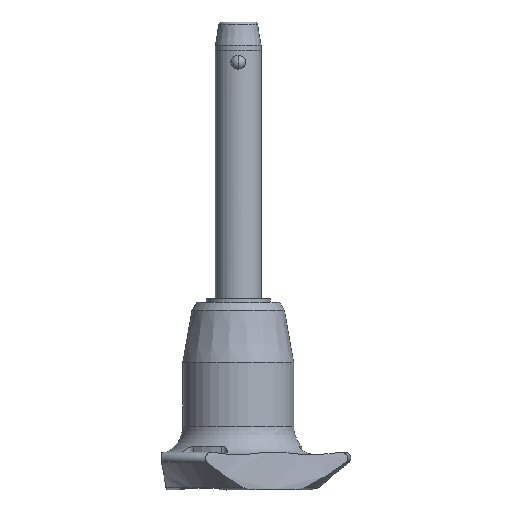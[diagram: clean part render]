
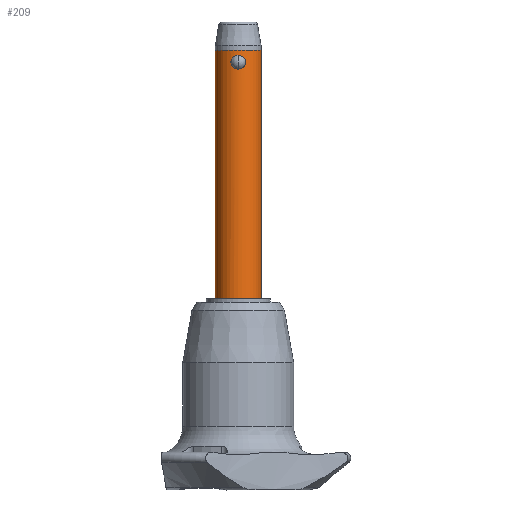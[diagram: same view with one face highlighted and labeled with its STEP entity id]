
A CAD part, front view. The second image highlights one B-rep face of the part: STEP entity #209.
In plain terms, the highlighted cylindrical face has radius 4 mm (diameter 8 mm), a partial arc.
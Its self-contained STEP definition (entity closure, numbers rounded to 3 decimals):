
#58 = DIRECTION ( 'NONE',  ( 1., 0., 0. ) ) ;
#65 = CIRCLE ( 'NONE', #1252, 4. ) ;
#80 = EDGE_LOOP ( 'NONE', ( #2403, #1825 ) ) ;
#112 = CARTESIAN_POINT ( 'NONE',  ( -0.945, -3.887, 2.008 ) ) ;
#119 = CARTESIAN_POINT ( 'NONE',  ( 1.231, -3.806, 0.873 ) ) ;
#123 = VERTEX_POINT ( 'NONE', #1341 ) ;
#142 = CARTESIAN_POINT ( 'NONE',  ( 0.326, -3.99, 0.029 ) ) ;
#167 = CARTESIAN_POINT ( 'NONE',  ( -0.553, -3.962, 2.285 ) ) ;
#181 = CARTESIAN_POINT ( 'NONE',  ( -1.266, -3.794, 1.12 ) ) ;
#209 = ADVANCED_FACE ( 'NONE', ( #497, #279 ), #2057, .T. ) ;
#211 = ORIENTED_EDGE ( 'NONE', *, *, #1862, .F. ) ;
#212 = CARTESIAN_POINT ( 'NONE',  ( 4., 0., -40. ) ) ;
#279 = FACE_BOUND ( 'NONE', #80, .T. ) ;
#287 = CARTESIAN_POINT ( 'NONE',  ( -4., 0., 3.28 ) ) ;
#316 = CARTESIAN_POINT ( 'NONE',  ( 0., 0., -40. ) ) ;
#384 = DIRECTION ( 'NONE',  ( 0., 0., 1. ) ) ;
#390 = CARTESIAN_POINT ( 'NONE',  ( -1.101, -3.846, 0.579 ) ) ;
#436 = DIRECTION ( 'NONE',  ( 0., 0., 1. ) ) ;
#442 = EDGE_LOOP ( 'NONE', ( #211, #2124, #857, #2161 ) ) ;
#497 = FACE_OUTER_BOUND ( 'NONE', #442, .T. ) ;
#500 = CARTESIAN_POINT ( 'NONE',  ( 0., 0., -40. ) ) ;
#509 = CARTESIAN_POINT ( 'NONE',  ( 0., -4., 2.4 ) ) ;
#538 = CARTESIAN_POINT ( 'NONE',  ( 1.101, -3.846, 1.82 ) ) ;
#570 = CARTESIAN_POINT ( 'NONE',  ( 1.266, -3.794, 1.281 ) ) ;
#573 = CARTESIAN_POINT ( 'NONE',  ( -4., 0., -40. ) ) ;
#584 = CARTESIAN_POINT ( 'NONE',  ( -1.005, -3.874, 0.447 ) ) ;
#602 = CARTESIAN_POINT ( 'NONE',  ( -0.625, -3.951, 2.25 ) ) ;
#720 = CARTESIAN_POINT ( 'NONE',  ( 0.999, -3.874, 0.452 ) ) ;
#738 = CARTESIAN_POINT ( 'NONE',  ( -0.768, -3.927, 0.228 ) ) ;
#755 = CARTESIAN_POINT ( 'NONE',  ( 0., -4., 2.4 ) ) ;
#761 = CARTESIAN_POINT ( 'NONE',  ( 0., -4., 2.4 ) ) ;
#777 = CARTESIAN_POINT ( 'NONE',  ( 0.627, -3.953, 0.143 ) ) ;
#781 = DIRECTION ( 'NONE',  ( 0., 0., 1. ) ) ;
#850 = VERTEX_POINT ( 'NONE', #755 ) ;
#857 = ORIENTED_EDGE ( 'NONE', *, *, #1564, .T. ) ;
#943 = CARTESIAN_POINT ( 'NONE',  ( 1.199, -3.816, 1.599 ) ) ;
#963 = CARTESIAN_POINT ( 'NONE',  ( -0.628, -3.953, 0.143 ) ) ;
#971 = CARTESIAN_POINT ( 'NONE',  ( -0.998, -3.874, 1.949 ) ) ;
#976 = CARTESIAN_POINT ( 'NONE',  ( 0.769, -3.927, 2.171 ) ) ;
#993 = CARTESIAN_POINT ( 'NONE',  ( 0.768, -3.927, 0.228 ) ) ;
#1002 = VERTEX_POINT ( 'NONE', #1959 ) ;
#1026 = B_SPLINE_CURVE_WITH_KNOTS ( 'NONE', 3,
 ( #761, #1251, #2128, #167, #602, #1187, #2068, #112, #971, #1861, #2727, #1642, #2142, #181, #1043, #1266, #1931, #390, #584, #738, #963, #1896, #1451, #2315 ),
 .UNSPECIFIED., .F., .F.,
 ( 4, 2, 2, 2, 2, 2, 2, 2, 2, 2, 2, 4 ),
 ( 0., 0., 0.001, 0.001, 0.001, 0.001, 0.002, 0.002, 0.002, 0.003, 0.003, 0.004 ),
 .UNSPECIFIED. ) ;
#1043 = CARTESIAN_POINT ( 'NONE',  ( -1.258, -3.797, 1.038 ) ) ;
#1050 = DIRECTION ( 'NONE',  ( 1., 0., 0. ) ) ;
#1187 = CARTESIAN_POINT ( 'NONE',  ( -0.762, -3.927, 2.166 ) ) ;
#1251 = CARTESIAN_POINT ( 'NONE',  ( -0.164, -4., 2.4 ) ) ;
#1252 = AXIS2_PLACEMENT_3D ( 'NONE', #500, #2663, #58 ) ;
#1266 = CARTESIAN_POINT ( 'NONE',  ( -1.224, -3.808, 0.879 ) ) ;
#1340 = AXIS2_PLACEMENT_3D ( 'NONE', #2370, #384, #1050 ) ;
#1341 = CARTESIAN_POINT ( 'NONE',  ( -4., 0., -40. ) ) ;
#1371 = DIRECTION ( 'NONE',  ( 0., 0., 1. ) ) ;
#1401 = CARTESIAN_POINT ( 'NONE',  ( 0.162, -4., 0. ) ) ;
#1411 = CARTESIAN_POINT ( 'NONE',  ( 4., 0., -40. ) ) ;
#1412 = EDGE_CURVE ( 'NONE', #1484, #850, #2799, .T. ) ;
#1434 = CIRCLE ( 'NONE', #1340, 4. ) ;
#1451 = CARTESIAN_POINT ( 'NONE',  ( -0.162, -4., 0. ) ) ;
#1484 = VERTEX_POINT ( 'NONE', #1503 ) ;
#1503 = CARTESIAN_POINT ( 'NONE',  ( 0., -4., 0. ) ) ;
#1507 = VERTEX_POINT ( 'NONE', #212 ) ;
#1564 = EDGE_CURVE ( 'NONE', #1507, #1002, #1844, .T. ) ;
#1602 = CARTESIAN_POINT ( 'NONE',  ( 1.224, -3.808, 1.52 ) ) ;
#1633 = CARTESIAN_POINT ( 'NONE',  ( 1.005, -3.874, 1.953 ) ) ;
#1642 = CARTESIAN_POINT ( 'NONE',  ( -1.231, -3.806, 1.527 ) ) ;
#1660 = CARTESIAN_POINT ( 'NONE',  ( 0.164, -4., 2.4 ) ) ;
#1794 = EDGE_CURVE ( 'NONE', #850, #1484, #1026, .T. ) ;
#1825 = ORIENTED_EDGE ( 'NONE', *, *, #1412, .F. ) ;
#1844 = LINE ( 'NONE', #1411, #2433 ) ;
#1852 = CARTESIAN_POINT ( 'NONE',  ( 1.266, -3.794, 1.035 ) ) ;
#1861 = CARTESIAN_POINT ( 'NONE',  ( -1.092, -3.848, 1.818 ) ) ;
#1862 = EDGE_CURVE ( 'NONE', #123, #2771, #2488, .T. ) ;
#1879 = CARTESIAN_POINT ( 'NONE',  ( 1.132, -3.836, 0.651 ) ) ;
#1893 = CARTESIAN_POINT ( 'NONE',  ( 0.944, -3.887, 0.391 ) ) ;
#1896 = CARTESIAN_POINT ( 'NONE',  ( -0.326, -3.99, 0.029 ) ) ;
#1931 = CARTESIAN_POINT ( 'NONE',  ( -1.199, -3.816, 0.802 ) ) ;
#1959 = CARTESIAN_POINT ( 'NONE',  ( 4., 0., 3.28 ) ) ;
#1972 = EDGE_CURVE ( 'NONE', #2771, #1002, #1434, .T. ) ;
#2046 = CARTESIAN_POINT ( 'NONE',  ( 1.092, -3.848, 0.582 ) ) ;
#2057 = CYLINDRICAL_SURFACE ( 'NONE', #2246, 4. ) ;
#2068 = CARTESIAN_POINT ( 'NONE',  ( -0.827, -3.914, 2.117 ) ) ;
#2124 = ORIENTED_EDGE ( 'NONE', *, *, #2278, .F. ) ;
#2128 = CARTESIAN_POINT ( 'NONE',  ( -0.325, -3.99, 2.371 ) ) ;
#2142 = CARTESIAN_POINT ( 'NONE',  ( -1.266, -3.794, 1.364 ) ) ;
#2161 = ORIENTED_EDGE ( 'NONE', *, *, #1972, .F. ) ;
#2246 = AXIS2_PLACEMENT_3D ( 'NONE', #316, #1371, #2284 ) ;
#2278 = EDGE_CURVE ( 'NONE', #1507, #123, #65, .T. ) ;
#2284 = DIRECTION ( 'NONE',  ( 1., 0., 0. ) ) ;
#2315 = CARTESIAN_POINT ( 'NONE',  ( 0., -4., 0. ) ) ;
#2370 = CARTESIAN_POINT ( 'NONE',  ( 0., 0., 3.28 ) ) ;
#2403 = ORIENTED_EDGE ( 'NONE', *, *, #1794, .F. ) ;
#2433 = VECTOR ( 'NONE', #436, 1000. ) ;
#2466 = CARTESIAN_POINT ( 'NONE',  ( 0.629, -3.953, 2.256 ) ) ;
#2488 = LINE ( 'NONE', #573, #2572 ) ;
#2497 = CARTESIAN_POINT ( 'NONE',  ( 0.326, -3.99, 2.371 ) ) ;
#2572 = VECTOR ( 'NONE', #781, 1000. ) ;
#2663 = DIRECTION ( 'NONE',  ( 0., 0., -1. ) ) ;
#2716 = CARTESIAN_POINT ( 'NONE',  ( 1.258, -3.797, 1.361 ) ) ;
#2727 = CARTESIAN_POINT ( 'NONE',  ( -1.133, -3.836, 1.747 ) ) ;
#2744 = CARTESIAN_POINT ( 'NONE',  ( 0., -4., 0. ) ) ;
#2771 = VERTEX_POINT ( 'NONE', #287 ) ;
#2799 = B_SPLINE_CURVE_WITH_KNOTS ( 'NONE', 3,
 ( #2744, #1401, #142, #777, #993, #1893, #720, #2046, #1879, #119, #1852, #570, #2716, #1602, #943, #538, #1633, #976, #2466, #2497, #1660, #509 ),
 .UNSPECIFIED., .F., .F.,
 ( 4, 2, 2, 2, 2, 2, 2, 2, 2, 2, 4 ),
 ( 0.004, 0.004, 0.005, 0.005, 0.005, 0.006, 0.006, 0.006, 0.007, 0.007, 0.008 ),
 .UNSPECIFIED. ) ;
